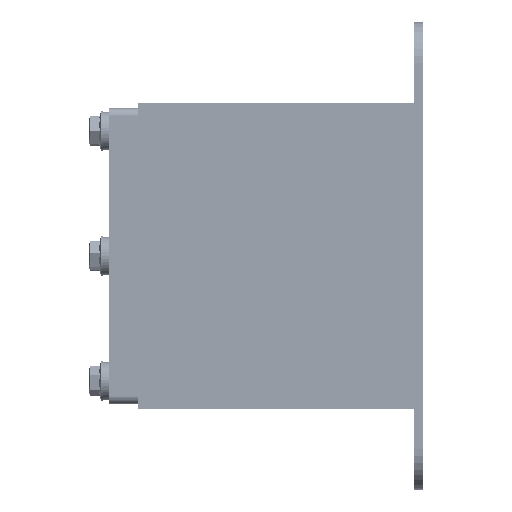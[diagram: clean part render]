
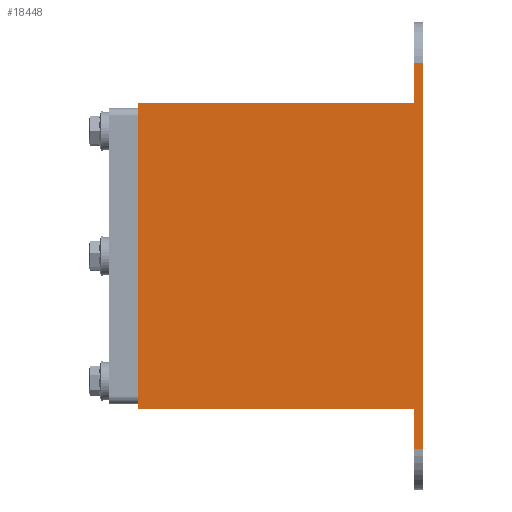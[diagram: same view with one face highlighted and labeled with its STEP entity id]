
A CAD part, left-side view. The second image highlights one B-rep face of the part: STEP entity #18448.
In plain terms, the highlighted planar face has unit normal (-1, 0, 0).
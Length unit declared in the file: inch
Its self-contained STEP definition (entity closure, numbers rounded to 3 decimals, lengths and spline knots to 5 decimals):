
#863 = DIRECTION ( 'NONE',  ( 0., 0., 1. ) ) ;
#1088 = ORIENTED_EDGE ( 'NONE', *, *, #17471, .F. ) ;
#2725 = EDGE_CURVE ( 'NONE', #70320, #67167, #8245, .T. ) ;
#4487 = ORIENTED_EDGE ( 'NONE', *, *, #72567, .T. ) ;
#5957 = VERTEX_POINT ( 'NONE', #26272 ) ;
#8063 = DIRECTION ( 'NONE',  ( 0., -1., 0. ) ) ;
#8114 = CARTESIAN_POINT ( 'NONE',  ( -4.75, -1.75, -2.375 ) ) ;
#8139 = LINE ( 'NONE', #52939, #10488 ) ;
#8245 = LINE ( 'NONE', #22371, #34494 ) ;
#10488 = VECTOR ( 'NONE', #52438, 39.37008 ) ;
#10656 = DIRECTION ( 'NONE',  ( 0., 0., -1. ) ) ;
#12305 = LINE ( 'NONE', #49306, #12719 ) ;
#12719 = VECTOR ( 'NONE', #93124, 39.37008 ) ;
#16058 = VERTEX_POINT ( 'NONE', #56081 ) ;
#17471 = EDGE_CURVE ( 'NONE', #63391, #51967, #21304, .T. ) ;
#18448 = ADVANCED_FACE ( 'NONE', ( #93886 ), #19422, .F. ) ;
#19422 = PLANE ( 'NONE',  #27396 ) ;
#21231 = ORIENTED_EDGE ( 'NONE', *, *, #64429, .T. ) ;
#21304 = LINE ( 'NONE', #51009, #53469 ) ;
#21306 = LINE ( 'NONE', #23141, #62189 ) ;
#22371 = CARTESIAN_POINT ( 'NONE',  ( -4.75, -1.645, -1.875 ) ) ;
#23141 = CARTESIAN_POINT ( 'NONE',  ( -4.75, -1.645, 2.375 ) ) ;
#23390 = EDGE_LOOP ( 'NONE', ( #21231, #63346, #4487, #63657, #1088, #70548, #40499, #94022 ) ) ;
#25478 = LINE ( 'NONE', #34235, #48278 ) ;
#26272 = CARTESIAN_POINT ( 'NONE',  ( -4.75, -1.645, 1.875 ) ) ;
#26761 = CARTESIAN_POINT ( 'NONE',  ( -4.75, 1.75, 1.875 ) ) ;
#27192 = CARTESIAN_POINT ( 'NONE',  ( -4.75, -1.645, -2.375 ) ) ;
#27396 = AXIS2_PLACEMENT_3D ( 'NONE', #26761, #79305, #10656 ) ;
#27431 = VECTOR ( 'NONE', #863, 39.37008 ) ;
#32886 = CARTESIAN_POINT ( 'NONE',  ( -4.75, -1.645, 1.875 ) ) ;
#34235 = CARTESIAN_POINT ( 'NONE',  ( -4.75, 1.75, 1.875 ) ) ;
#34494 = VECTOR ( 'NONE', #45269, 39.37008 ) ;
#34542 = DIRECTION ( 'NONE',  ( 0., 0., 1. ) ) ;
#40499 = ORIENTED_EDGE ( 'NONE', *, *, #2725, .T. ) ;
#42785 = EDGE_CURVE ( 'NONE', #16058, #49136, #21306, .T. ) ;
#45269 = DIRECTION ( 'NONE',  ( 0., 0., -1. ) ) ;
#46590 = LINE ( 'NONE', #76281, #27431 ) ;
#48278 = VECTOR ( 'NONE', #63914, 39.37008 ) ;
#49136 = VERTEX_POINT ( 'NONE', #83506 ) ;
#49306 = CARTESIAN_POINT ( 'NONE',  ( -4.75, 1.75, -1.875 ) ) ;
#51009 = CARTESIAN_POINT ( 'NONE',  ( -4.75, 1.75, 1.875 ) ) ;
#51502 = EDGE_CURVE ( 'NONE', #51967, #5957, #25478, .T. ) ;
#51967 = VERTEX_POINT ( 'NONE', #95840 ) ;
#52438 = DIRECTION ( 'NONE',  ( 0., -1., 0. ) ) ;
#52939 = CARTESIAN_POINT ( 'NONE',  ( -4.75, -1.645, -2.375 ) ) ;
#53469 = VECTOR ( 'NONE', #34542, 39.37008 ) ;
#54813 = LINE ( 'NONE', #32886, #57685 ) ;
#56081 = CARTESIAN_POINT ( 'NONE',  ( -4.75, -1.645, 2.375 ) ) ;
#56832 = VERTEX_POINT ( 'NONE', #8114 ) ;
#57685 = VECTOR ( 'NONE', #85928, 39.37008 ) ;
#62189 = VECTOR ( 'NONE', #8063, 39.37008 ) ;
#63163 = EDGE_CURVE ( 'NONE', #67167, #56832, #8139, .T. ) ;
#63346 = ORIENTED_EDGE ( 'NONE', *, *, #42785, .F. ) ;
#63391 = VERTEX_POINT ( 'NONE', #72767 ) ;
#63657 = ORIENTED_EDGE ( 'NONE', *, *, #51502, .F. ) ;
#63914 = DIRECTION ( 'NONE',  ( 0., -1., 0. ) ) ;
#64260 = CARTESIAN_POINT ( 'NONE',  ( -4.75, -1.645, -1.875 ) ) ;
#64429 = EDGE_CURVE ( 'NONE', #56832, #49136, #46590, .T. ) ;
#67167 = VERTEX_POINT ( 'NONE', #27192 ) ;
#70320 = VERTEX_POINT ( 'NONE', #64260 ) ;
#70548 = ORIENTED_EDGE ( 'NONE', *, *, #73888, .T. ) ;
#72567 = EDGE_CURVE ( 'NONE', #16058, #5957, #54813, .T. ) ;
#72767 = CARTESIAN_POINT ( 'NONE',  ( -4.75, 1.75, -1.875 ) ) ;
#73888 = EDGE_CURVE ( 'NONE', #63391, #70320, #12305, .T. ) ;
#76281 = CARTESIAN_POINT ( 'NONE',  ( -4.75, -1.75, 1.875 ) ) ;
#79305 = DIRECTION ( 'NONE',  ( 1., 0., 0. ) ) ;
#83506 = CARTESIAN_POINT ( 'NONE',  ( -4.75, -1.75, 2.375 ) ) ;
#85928 = DIRECTION ( 'NONE',  ( 0., 0., -1. ) ) ;
#93124 = DIRECTION ( 'NONE',  ( 0., -1., 0. ) ) ;
#93886 = FACE_OUTER_BOUND ( 'NONE', #23390, .T. ) ;
#94022 = ORIENTED_EDGE ( 'NONE', *, *, #63163, .T. ) ;
#95840 = CARTESIAN_POINT ( 'NONE',  ( -4.75, 1.75, 1.875 ) ) ;
